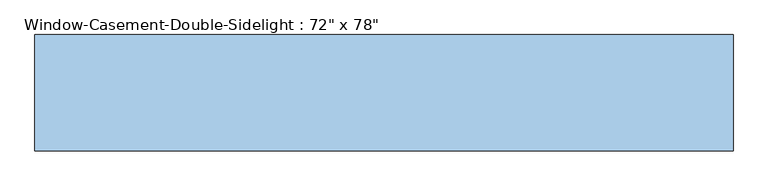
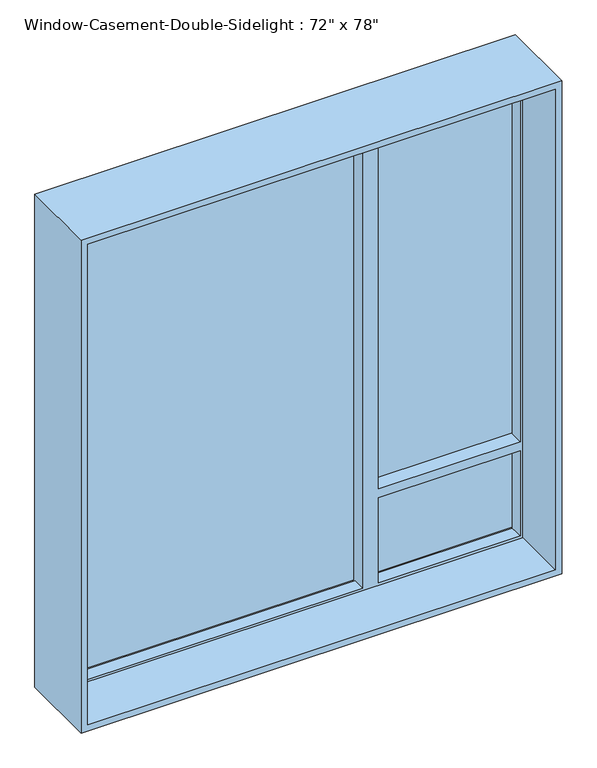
"""IFC4 building model written with IfcOpenShell, lengths in millimetres: window geometry."""

import ifcopenshell
import ifcopenshell.guid

model = None  # the IFC model being written
_history = None  # IfcOwnerHistory: only IFC2X3 demands one
_inside = {}  # id of a spatial element -> (the spatial element, [elements in it])
_under = {}  # id of a project, library or spatial element -> (it, [spatial elements below it])
_declared = {}  # id of a project -> (the project, [libraries it declares])
_typed = {}  # id of a type object -> (the type object, [elements of that type])
_made_of = {}  # id of a material, layer set ... -> (it, [elements and type objects made of it])


def new_model(schema):
    """Start an empty IFC model of exactly this schema.

    Asked for "IFC4X3", IfcOpenShell would pick the latest addendum, in which some entities
    have other attributes; the version numbers below select the first issue.
    IFC2X3 requires an IfcOwnerHistory on every rooted entity: one is made here for all.
    """
    global model, _history
    if schema == "IFC4X3":
        model = ifcopenshell.file(schema_version=(4, 3, 0, 0))
    else:
        model = ifcopenshell.file(schema=schema)
    _inside.clear()
    _under.clear()
    _declared.clear()
    _typed.clear()
    _made_of.clear()
    _history = None
    if model.schema == "IFC2X3":
        org = make("IfcOrganization", Name="unknown")
        user = make(
            "IfcPersonAndOrganization",
            ThePerson=make("IfcPerson", FamilyName="unknown"),
            TheOrganization=org,
        )
        app = make(
            "IfcApplication",
            ApplicationDeveloper=org,
            Version="unknown",
            ApplicationFullName="unknown",
            ApplicationIdentifier="unknown",
        )
        _history = make(
            "IfcOwnerHistory",
            OwningUser=user,
            OwningApplication=app,
            ChangeAction="ADDED",
            CreationDate=0,
        )
    return model


def make(cls, **values):
    """One entity of the class cls with the attributes given. An attribute that is None is left unset."""
    return model.create_entity(
        cls, **{name: value for name, value in values.items() if value is not None}
    )


def rooted(cls, **values):
    """An entity with a GlobalId (a new one), such as an element, a storey or a relation."""
    return make(cls, GlobalId=ifcopenshell.guid.new(), OwnerHistory=_history, **values)


def si_unit(unit_type, name, prefix=None):
    """IfcSIUnit, for example si_unit("LENGTHUNIT", "METRE", prefix="MILLI")."""
    return make("IfcSIUnit", UnitType=unit_type, Prefix=prefix, Name=name)


def assignment(units):
    """IfcUnitAssignment: the units of a project."""
    return None if units is None else make("IfcUnitAssignment", Units=units)


def point(xyz):
    """IfcCartesianPoint."""
    return None if xyz is None else make("IfcCartesianPoint", Coordinates=xyz)


def direction(xyz):
    """IfcDirection."""
    return None if xyz is None else make("IfcDirection", DirectionRatios=xyz)


def frame(location, z_axis=None, x_axis=None):
    """IfcAxis2Placement3D, a coordinate frame: its origin and axes. An axis left out is left unset."""
    return make(
        "IfcAxis2Placement3D",
        Location=point(location),
        Axis=direction(z_axis),
        RefDirection=direction(x_axis),
    )


def origin():
    """The frame at (0, 0, 0) with its axes left unset."""
    return frame((0.0, 0.0, 0.0))


def place(relative_to, where):
    """IfcLocalPlacement: puts the frame where relative to a parent placement (None: the world)."""
    return make(
        "IfcLocalPlacement", PlacementRelTo=relative_to, RelativePlacement=where
    )


def context(
    kind, dimensions, precision=None, world=None, true_north=None, identifier=None
):
    """IfcGeometricRepresentationContext, for example the 3D "Model" context."""
    return make(
        "IfcGeometricRepresentationContext",
        ContextIdentifier=identifier,
        ContextType=kind,
        CoordinateSpaceDimension=dimensions,
        Precision=precision,
        WorldCoordinateSystem=world,
        TrueNorth=true_north,
    )


def project(units=None, contexts=None):
    """IfcProject with its units and contexts."""
    return rooted(
        "IfcProject",
        Name="project",
        RepresentationContexts=contexts,
        UnitsInContext=assignment(units),
    )


def spatial(cls, under=None, at=None, **own):
    """A site, building, storey or space (cls), placed at a placement, below another one or the project."""
    s = rooted(cls, ObjectPlacement=at, **own)
    if under is not None:
        _under.setdefault(under.id(), (under, []))[1].append(s)
    return s


def polyline(points):
    """IfcPolyline through the points."""
    return make("IfcPolyline", Points=[point(p) for p in points])


def outline(outer, holes=None, kind="AREA"):
    """IfcArbitraryClosedProfileDef: a profile drawn as a closed curve; with holes, ...WithVoids."""
    if holes is None:
        return make("IfcArbitraryClosedProfileDef", ProfileType=kind, OuterCurve=outer)
    return make(
        "IfcArbitraryProfileDefWithVoids",
        ProfileType=kind,
        OuterCurve=outer,
        InnerCurves=holes,
    )


def extrude(swept, where, along, depth):
    """IfcExtrudedAreaSolid: the profile swept, set in the frame where, extruded along a direction by depth."""
    return make(
        "IfcExtrudedAreaSolid",
        SweptArea=swept,
        Position=where,
        ExtrudedDirection=direction(along),
        Depth=depth,
    )


def faces_of(points, faces, orient=None, outer=None):
    """IfcFace entities. A face is a list of loops; a loop is a list of indices into points, from 0.

    orient and outer hold one flag for each loop. By default every Orientation is true, the
    first loop of a face is its IfcFaceOuterBound and the others are IfcFaceBound.
    """
    made = []
    for i, loops in enumerate(faces):
        bounds = []
        for j, loop in enumerate(loops):
            is_outer = j == 0 if outer is None else outer[i][j]
            bounds.append(
                make(
                    "IfcFaceOuterBound" if is_outer else "IfcFaceBound",
                    Bound=make("IfcPolyLoop", Polygon=[points[k] for k in loop]),
                    Orientation=True if orient is None else orient[i][j],
                )
            )
        made.append(make("IfcFace", Bounds=bounds))
    return made


def faceted_brep(points, faces, orient=None, outer=None, voids=None):
    """IfcFacetedBrep: a solid bounded by flat faces; with voids (closed shells), ...WithVoids."""
    shared = [point(p) for p in points]
    hull = make("IfcClosedShell", CfsFaces=faces_of(shared, faces, orient, outer))
    if voids is None:
        return make("IfcFacetedBrep", Outer=hull)
    return make(
        "IfcFacetedBrepWithVoids",
        Outer=hull,
        Voids=[
            make(cls, CfsFaces=faces_of(shared, fs, o, b)) for cls, fs, o, b in voids
        ],
    )


def shape(context_of_items, identifier, shape_type, items):
    """IfcShapeRepresentation: the items that make up one representation, for example the "Body"."""
    return make(
        "IfcShapeRepresentation",
        ContextOfItems=context_of_items,
        RepresentationIdentifier=identifier,
        RepresentationType=shape_type,
        Items=items,
    )


def source(mapping_origin, context_of_items, identifier, shape_type, items):
    """IfcRepresentationMap: a shape defined once, which mapped items show again and again."""
    return make(
        "IfcRepresentationMap",
        MappingOrigin=mapping_origin,
        MappedRepresentation=shape(context_of_items, identifier, shape_type, items),
    )


def transform(
    local_origin,
    x_axis=None,
    y_axis=None,
    z_axis=None,
    scale=None,
    scale2=None,
    scale3=None,
    uniform=True,
):
    """IfcCartesianTransformationOperator3D, or its non-uniform kind. x_axis, y_axis, z_axis: its Axis1, 2, 3."""
    if uniform:
        return make(
            "IfcCartesianTransformationOperator3D",
            Axis1=direction(x_axis),
            Axis2=direction(y_axis),
            LocalOrigin=point(local_origin),
            Scale=scale,
            Axis3=direction(z_axis),
        )
    return make(
        "IfcCartesianTransformationOperator3DnonUniform",
        Axis1=direction(x_axis),
        Axis2=direction(y_axis),
        LocalOrigin=point(local_origin),
        Scale=scale,
        Axis3=direction(z_axis),
        Scale2=scale2,
        Scale3=scale3,
    )


def mapped(mapping_source, mapping_target):
    """IfcMappedItem: shows the shape of a source again, moved by a transform."""
    return make(
        "IfcMappedItem", MappingSource=mapping_source, MappingTarget=mapping_target
    )


def made_of(thing, what):
    """Note that an element or type object is made of a material, layer set ...; save() writes the relation."""
    if what is not None:
        _made_of.setdefault(what.id(), (what, []))[1].append(thing)
    return thing


def element(
    cls,
    number,
    at=None,
    inside=None,
    cuts=None,
    type_object=None,
    material=None,
    context=None,
    identifier="Body",
    shape_type=None,
    held_by="IfcProductDefinitionShape",
    body=None,
    shapes=None,
    **own,
):
    """One element of the class cls, such as IfcWall. Its Tag is "e" and its number.

    at: its placement. inside: the storey or other place that contains it. cuts: it is an
    opening in that element (IfcRelVoidsElement). A single representation is given by context,
    identifier, shape_type and body (its items); several are given by shapes. held_by: the class
    of the entity that holds the representations. save() writes the other relations.
    """
    e = rooted(cls, Tag="e%d" % number, ObjectPlacement=at, **own)
    if body is not None:
        shapes = [shape(context, identifier, shape_type, body)]
    if shapes is not None:
        e.Representation = make(held_by, Representations=shapes)
    if inside is not None:
        _inside.setdefault(inside.id(), (inside, []))[1].append(e)
    if cuts is not None:
        rooted(
            "IfcRelVoidsElement", RelatingBuildingElement=cuts, RelatedOpeningElement=e
        )
    if type_object is not None:
        _typed.setdefault(type_object.id(), (type_object, []))[1].append(e)
    return made_of(e, material)


def aggregate(whole, parts):
    """IfcRelAggregates: a whole, such as a stair, and the parts it consists of."""
    return rooted("IfcRelAggregates", RelatingObject=whole, RelatedObjects=parts)


def save(model, path):
    """Write the relations noted so far, then the file.

    IfcRelAggregates (storeys below a building ...), IfcRelContainedInSpatialStructure (elements
    in a storey), IfcRelDefinesByType, IfcRelAssociatesMaterial and IfcRelDeclares: one each for
    every whole, place, type object, material and project.
    """
    for whole, parts in _under.values():
        aggregate(whole, parts)
    for where, things in _inside.values():
        rooted(
            "IfcRelContainedInSpatialStructure",
            RelatedElements=things,
            RelatingStructure=where,
        )
    for kind, things in _typed.values():
        rooted("IfcRelDefinesByType", RelatedObjects=things, RelatingType=kind)
    for what, things in _made_of.values():
        rooted("IfcRelAssociatesMaterial", RelatedObjects=things, RelatingMaterial=what)
    for by, libraries in _declared.values():
        rooted("IfcRelDeclares", RelatingContext=by, RelatedDefinitions=libraries)
    model.write(path)


def window_aa97305f(model_context):
    return source(origin(), model_context, "Body", "SolidModel", [
        faceted_brep([(-889.0, 111.125, 2870.2), (-889.0, 152.4, 2870.2), (889.0, 152.4, 2870.2), (889.0, 111.125, 2870.2), (330.2, 111.125, 2870.2), (330.2, 149.225, 2870.2), (279.4, 149.225, 2870.2), (279.4, 111.125, 2870.2), (-878.8796875, 60.325, 2860.0796875), (-878.8796875, 111.125, 2860.0796875), (279.4, 111.125, 2860.0796875), (279.4, 60.325, 2860.0796875), (878.8796875, 111.125, 2860.0796875), (878.8796875, 60.325, 2860.0796875), (340.3203125, 60.325, 2860.0796875), (340.3203125, 111.125, 2860.0796875), (-889.0, -152.4, 2870.2), (-889.0, 60.325, 2870.2), (889.0, 60.325, 2870.2), (889.0, -152.4, 2870.2), (-914.4, 152.4, 2895.6), (-914.4, -152.4, 2895.6), (914.4, -152.4, 2895.6), (914.4, 152.4, 2895.6), (889.0, 152.4, 939.8), (889.0, 111.125, 939.8), (889.0, 111.125, 1292.8798438), (889.0, 149.225, 1292.8798438), (889.0, 149.225, 1328.4001563), (889.0, 111.125, 1328.4001563), (878.8796875, 111.125, 1328.4001563), (878.8796875, 60.325, 1328.4001563), (878.8796875, 111.125, 949.9203125), (878.8796875, 60.325, 949.9203125), (878.8796875, 60.325, 1292.8798438), (878.8796875, 111.125, 1292.8798438), (889.0, 60.325, 939.8), (889.0, -152.4, 939.8), (914.4, -152.4, 914.4), (914.4, 152.4, 914.4), (-889.0, 152.4, 939.8), (-889.0, 111.125, 939.8), (279.4, 111.125, 939.8), (279.4, 149.225, 939.8), (330.2, 149.225, 939.8), (330.2, 111.125, 939.8), (340.3203125, 111.125, 949.9203125), (340.3203125, 60.325, 949.9203125), (-878.8796875, 111.125, 949.9203125), (-878.8796875, 60.325, 949.9203125), (279.4, 60.325, 949.9203125), (279.4, 111.125, 949.9203125), (-889.0, 60.325, 939.8), (-889.0, -152.4, 939.8), (-914.4, -152.4, 914.4), (-914.4, 152.4, 914.4), (340.3203125, 111.125, 1328.4001563), (330.2, 111.125, 1328.4001563), (330.2, 111.125, 1292.8798438), (340.3203125, 111.125, 1292.8798438), (340.3203125, 60.325, 1328.4001563), (340.3203125, 60.325, 1292.8798438), (330.2, 149.225, 1328.4001563), (330.2, 149.225, 1292.8798438)], [[[0, 1, 2, 3, 4, 5, 6, 7]], [[8, 9, 10, 11]], [[12, 13, 14, 15]], [[16, 17, 18, 19]], [[20, 21, 22, 23]], [[3, 2, 24, 25, 26, 27, 28, 29]], [[13, 12, 30, 31]], [[32, 33, 34, 35]], [[19, 18, 36, 37]], [[23, 22, 38, 39]], [[25, 24, 40, 41, 42, 43, 44, 45]], [[33, 32, 46, 47]], [[48, 49, 50, 51]], [[37, 36, 52, 53]], [[39, 38, 54, 55]], [[1, 0, 41, 40]], [[12, 15, 56, 57, 4, 3, 29, 30]], [[46, 32, 35, 26, 25, 45, 58, 59]], [[41, 0, 7, 10, 9, 48, 51, 42]], [[9, 8, 49, 48]], [[17, 52, 36, 18], [13, 31, 60, 14], [33, 47, 61, 34], [49, 8, 11, 50]], [[17, 16, 53, 52]], [[22, 21, 54, 38], [16, 19, 37, 53]], [[21, 20, 55, 54]], [[20, 23, 39, 55], [2, 1, 40, 24]], [[43, 6, 5, 62, 28, 27, 63, 44]], [[6, 43, 42, 51, 50, 11, 10, 7]], [[15, 14, 60, 56]], [[47, 46, 59, 61]], [[5, 4, 57, 62]], [[45, 44, 63, 58]], [[63, 27, 26, 35, 34, 61, 59, 58]], [[28, 62, 57, 56, 60, 31, 30, 29]]]),
        extrude(outline(polyline([(889.0, 123.825), (889.0, 117.475), (330.2, 117.475), (330.2, 123.825), (889.0, 123.825)])), frame((0.0, 0.0, 1328.4001563), z_axis=(0.0, 0.0, 1.0), x_axis=(1.0, 0.0, 0.0)), (0.0, 0.0, 1.0), 1541.7998438),
        extrude(outline(polyline([(889.0, 136.525), (889.0, 130.175), (330.2, 130.175), (330.2, 136.525), (889.0, 136.525)])), frame((0.0, 0.0, 1328.4001563), z_axis=(0.0, 0.0, 1.0), x_axis=(1.0, 0.0, 0.0)), (0.0, 0.0, 1.0), 1541.7998438),
        extrude(outline(polyline([(279.4, 136.525), (279.4, 130.175), (-889.0, 130.175), (-889.0, 136.525), (279.4, 136.525)])), frame((0.0, 0.0, 949.9203125), z_axis=(0.0, 0.0, 1.0), x_axis=(1.0, 0.0, 0.0)), (0.0, 0.0, 1.0), 1920.2796875),
        extrude(outline(polyline([(279.4, 123.825), (279.4, 117.475), (-889.0, 117.475), (-889.0, 123.825), (279.4, 123.825)])), frame((0.0, 0.0, 949.9203125), z_axis=(0.0, 0.0, 1.0), x_axis=(1.0, 0.0, 0.0)), (0.0, 0.0, 1.0), 1920.2796875),
        extrude(outline(polyline([(889.0, 136.525), (330.2, 136.525), (330.2, 149.225), (889.0, 149.225), (889.0, 136.525)])), frame((0.0, 0.0, 949.9203125), z_axis=(0.0, 0.0, 1.0), x_axis=(1.0, 0.0, 0.0)), (0.0, 0.0, 1.0), 342.9595312),
        extrude(outline(polyline([(889.0, 123.825), (889.0, 117.475), (330.2, 117.475), (330.2, 123.825), (889.0, 123.825)])), frame((0.0, 0.0, 949.9203125), z_axis=(0.0, 0.0, 1.0), x_axis=(1.0, 0.0, 0.0)), (0.0, 0.0, 1.0), 342.9595312),
    ])


if __name__ == "__main__":
    model = new_model("IFC4")
    model_context = context("Model", 3, world=origin())
    ifc_project = project(units=[si_unit("LENGTHUNIT", "METRE", prefix="MILLI")], contexts=[model_context])
    site = spatial("IfcSite", under=ifc_project)
    building = spatial("IfcBuilding", under=site)
    placement = place(None, origin())
    window_shape = window_aa97305f(model_context)
    element("IfcWindow", 1, ObjectType="Window-Casement-Double-Sidelight : 72\" x 78\"", at=placement, inside=building, context=model_context, shape_type="MappedRepresentation", body=[
        mapped(window_shape, transform((0.0, 0.0, 0.0), x_axis=(1.0, 0.0, 0.0), y_axis=(0.0, 1.0, 0.0), z_axis=(0.0, 0.0, 1.0))),
    ])
    save(model, "model.ifc")
